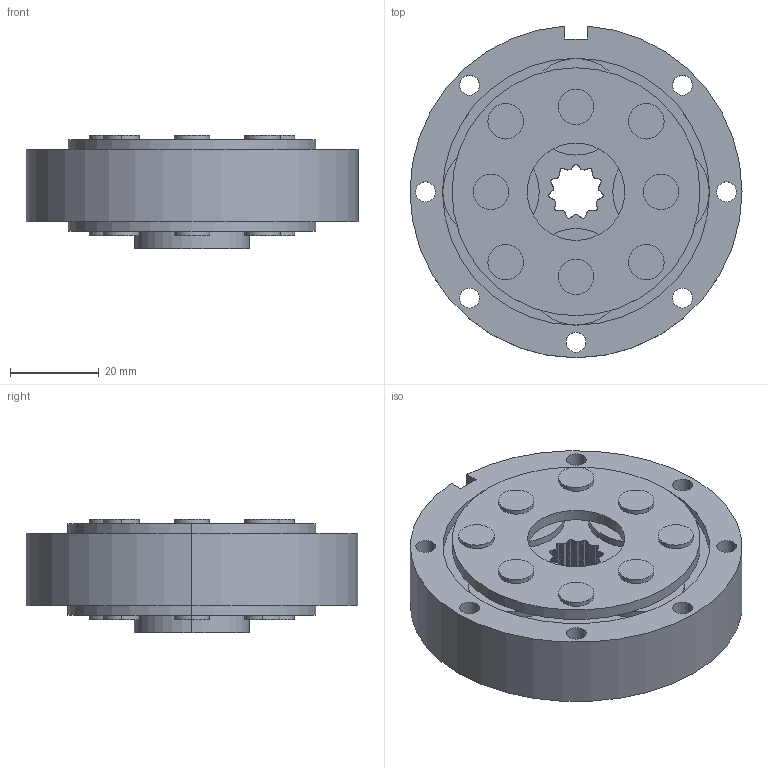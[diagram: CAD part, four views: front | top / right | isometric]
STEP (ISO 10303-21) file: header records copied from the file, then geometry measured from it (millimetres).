
FILE_DESCRIPTION (( 'STEP AP203' ), '1' );
FILE_NAME ('LGU75-4MDG12.step', '2021-07-23T02:27:52', ( '' ), ( '' ), 'SwSTEP 2.0', 'SolidWorks 2021', '' );
FILE_SCHEMA (( 'CONFIG_CONTROL_DESIGN' ));
Length unit declared in the file: millimetre
Products named in the file (1): LGU75-4MDG12
Bounding box: 75 x 74.92 x 25.7 mm (x, y, z)
Volume: 73049.9 mm3; surface area: 26690.2 mm2
Topology: 1 solids, 1 shells, 536 faces, 1509 edges, 1006 vertices
Faces by surface type: cylinder 500, plane 36
Entity records: 18074 total; most frequent: DIRECTION 3583, CARTESIAN_POINT 3052, ORIENTED_EDGE 3018, AXIS2_PLACEMENT_3D 1537, EDGE_CURVE 1509, VERTEX_POINT 1006, CIRCLE 1000, EDGE_LOOP 599
